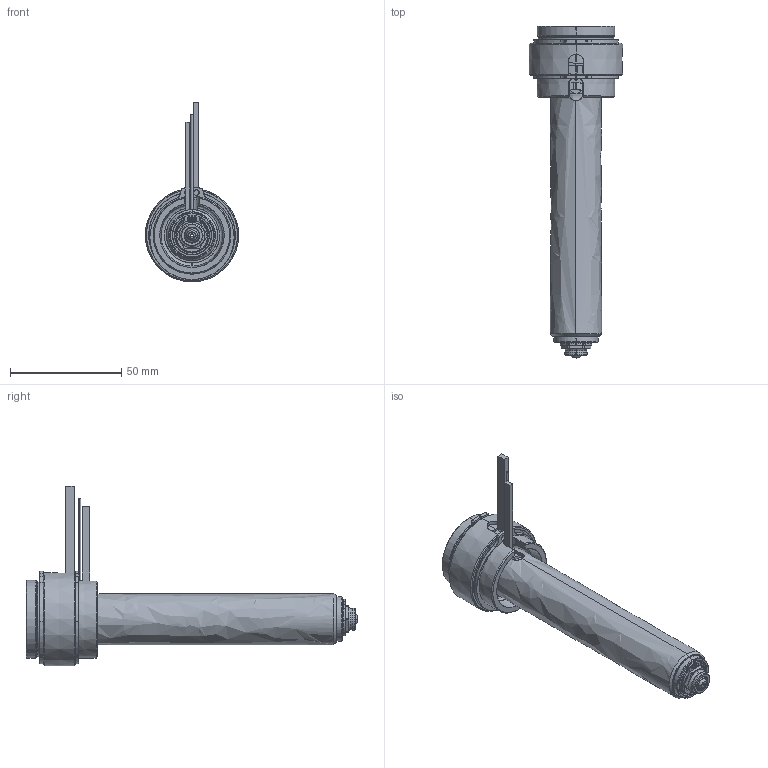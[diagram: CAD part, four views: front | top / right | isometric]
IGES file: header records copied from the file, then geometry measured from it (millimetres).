
Start section: SolidWorks IGES file using analytic representation for surfaces
Global section: file name: C:\Documents and Settings\ws-20\Desktop\TEM\UGER3553-S-A-1 [Øb-1.30  ØC-6.0].IGS; native system: SolidWorks 2012; preprocessor: SolidWorks 2012; author: ws-20; date: 120410.095105; units: millimetre
Bounding box: 42 x 149.4 x 80.9 mm (x, y, z)
Surface area: 44789 mm2 (no closed solid volume)
Topology: 0 solids, 0 shells, 206 faces, 3630 edges, 3630 vertices
Faces by surface type: revolution 131, bspline 75
